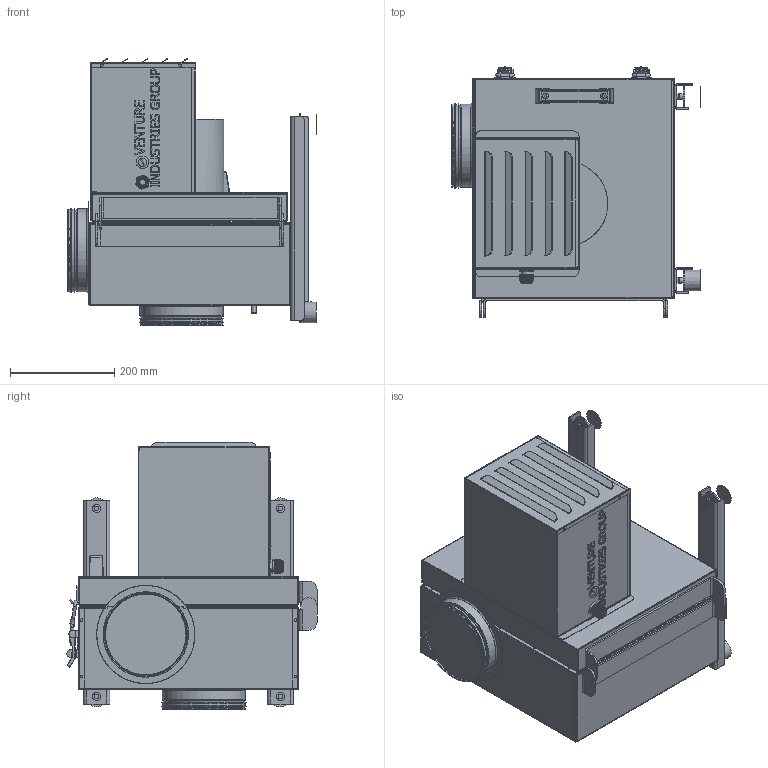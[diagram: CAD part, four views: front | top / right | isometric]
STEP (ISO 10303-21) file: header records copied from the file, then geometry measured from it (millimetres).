
FILE_DESCRIPTION(/* description */ (''),/* implementation_level */ '2;1');
FILE_NAME(/* name */ 'E:\iNVENTOR\KEF\KEF_4-160_75-025_45013010_45013015\KEF_4-160_75-025_45013010_45013015.stp',/* time_stamp */ '2019-06-25T12:03:02+02:00',/* author */ ('BartoszLac'),/* organization */ (''),/* preprocessor_version */ 'ST-DEVELOPER v17',/* originating_system */ 'Autodesk Inventor 2019',/* authorisation */ '');
FILE_SCHEMA (('AUTOMOTIVE_DESIGN { 1 0 10303 214 3 1 1 }'));
Products named in the file (1): 2 880 122 520
Bounding box: 475.98 x 479 x 511.44 mm (x, y, z)
Volume: 14402064.9 mm3; surface area: 3545711 mm2
Topology: 6 solids, 14 shells, 4879 faces, 13333 edges, 8594 vertices
Faces by surface type: plane 3242, cylinder 1052, bspline 331, cone 161, torus 92, sphere 1
Full cylindrical faces by diameter (mm): 2.5 x2, 3 x4, 5 x74, 6 x11, 6.647 x1, 7 x2, 8 x4, 8.6 x8, 9 x2, 9.2 x3, 10 x3, 10.9 x4, 11.5 x2, 13 x1, 13.5 x1, 14 x1, 15 x2, 16 x6, 20 x4, 21 x1, 22.664 x1, 23 x1, 24 x1, 26.992 x1, 28 x1, 40.4 x4, 140 x1, 154.165 x4, 157.8 x2, 157.948 x4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
Entity records: 166825 total; most frequent: CARTESIAN_POINT 38802, ORIENTED_EDGE 26654, DIRECTION 24870, EDGE_CURVE 13327, LINE 8662, VECTOR 8662, VERTEX_POINT 8598, AXIS2_PLACEMENT_3D 8104
